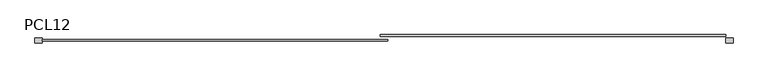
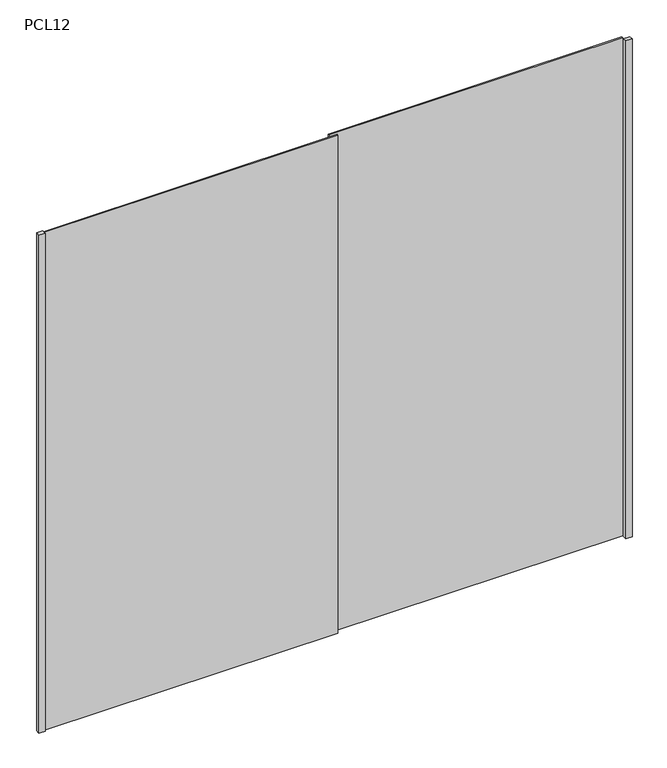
"""IFC4 building model written with IfcOpenShell, lengths in millimetres: furniture geometry, Puerta Closet corre 2 hojas : PCL12."""

import ifcopenshell
import ifcopenshell.guid

model = None  # the IFC model being written
_history = None  # IfcOwnerHistory: only IFC2X3 demands one
_inside = {}  # id of a spatial element -> (the spatial element, [elements in it])
_under = {}  # id of a project, library or spatial element -> (it, [spatial elements below it])
_declared = {}  # id of a project -> (the project, [libraries it declares])
_typed = {}  # id of a type object -> (the type object, [elements of that type])
_made_of = {}  # id of a material, layer set ... -> (it, [elements and type objects made of it])


def new_model(schema):
    """Start an empty IFC model of exactly this schema.

    Asked for "IFC4X3", IfcOpenShell would pick the latest addendum, in which some entities
    have other attributes; the version numbers below select the first issue.
    IFC2X3 requires an IfcOwnerHistory on every rooted entity: one is made here for all.
    """
    global model, _history
    if schema == "IFC4X3":
        model = ifcopenshell.file(schema_version=(4, 3, 0, 0))
    else:
        model = ifcopenshell.file(schema=schema)
    _inside.clear()
    _under.clear()
    _declared.clear()
    _typed.clear()
    _made_of.clear()
    _history = None
    if model.schema == "IFC2X3":
        org = make("IfcOrganization", Name="unknown")
        user = make(
            "IfcPersonAndOrganization",
            ThePerson=make("IfcPerson", FamilyName="unknown"),
            TheOrganization=org,
        )
        app = make(
            "IfcApplication",
            ApplicationDeveloper=org,
            Version="unknown",
            ApplicationFullName="unknown",
            ApplicationIdentifier="unknown",
        )
        _history = make(
            "IfcOwnerHistory",
            OwningUser=user,
            OwningApplication=app,
            ChangeAction="ADDED",
            CreationDate=0,
        )
    return model


def make(cls, **values):
    """One entity of the class cls with the attributes given. An attribute that is None is left unset."""
    return model.create_entity(
        cls, **{name: value for name, value in values.items() if value is not None}
    )


def rooted(cls, **values):
    """An entity with a GlobalId (a new one), such as an element, a storey or a relation."""
    return make(cls, GlobalId=ifcopenshell.guid.new(), OwnerHistory=_history, **values)


def si_unit(unit_type, name, prefix=None):
    """IfcSIUnit, for example si_unit("LENGTHUNIT", "METRE", prefix="MILLI")."""
    return make("IfcSIUnit", UnitType=unit_type, Prefix=prefix, Name=name)


def assignment(units):
    """IfcUnitAssignment: the units of a project."""
    return None if units is None else make("IfcUnitAssignment", Units=units)


def point(xyz):
    """IfcCartesianPoint."""
    return None if xyz is None else make("IfcCartesianPoint", Coordinates=xyz)


def direction(xyz):
    """IfcDirection."""
    return None if xyz is None else make("IfcDirection", DirectionRatios=xyz)


def frame(location, z_axis=None, x_axis=None):
    """IfcAxis2Placement3D, a coordinate frame: its origin and axes. An axis left out is left unset."""
    return make(
        "IfcAxis2Placement3D",
        Location=point(location),
        Axis=direction(z_axis),
        RefDirection=direction(x_axis),
    )


def origin():
    """The frame at (0, 0, 0) with its axes left unset."""
    return frame((0.0, 0.0, 0.0))


def origin_with_axes():
    """The frame at (0, 0, 0) with the z axis (0, 0, 1) and the x axis (1, 0, 0) written out."""
    return frame((0.0, 0.0, 0.0), z_axis=(0.0, 0.0, 1.0), x_axis=(1.0, 0.0, 0.0))


def place(relative_to, where):
    """IfcLocalPlacement: puts the frame where relative to a parent placement (None: the world)."""
    return make(
        "IfcLocalPlacement", PlacementRelTo=relative_to, RelativePlacement=where
    )


def context(
    kind, dimensions, precision=None, world=None, true_north=None, identifier=None
):
    """IfcGeometricRepresentationContext, for example the 3D "Model" context."""
    return make(
        "IfcGeometricRepresentationContext",
        ContextIdentifier=identifier,
        ContextType=kind,
        CoordinateSpaceDimension=dimensions,
        Precision=precision,
        WorldCoordinateSystem=world,
        TrueNorth=true_north,
    )


def project(units=None, contexts=None):
    """IfcProject with its units and contexts."""
    return rooted(
        "IfcProject",
        Name="project",
        RepresentationContexts=contexts,
        UnitsInContext=assignment(units),
    )


def spatial(cls, under=None, at=None, **own):
    """A site, building, storey or space (cls), placed at a placement, below another one or the project."""
    s = rooted(cls, ObjectPlacement=at, **own)
    if under is not None:
        _under.setdefault(under.id(), (under, []))[1].append(s)
    return s


def polyline(points):
    """IfcPolyline through the points."""
    return make("IfcPolyline", Points=[point(p) for p in points])


def outline(outer, holes=None, kind="AREA"):
    """IfcArbitraryClosedProfileDef: a profile drawn as a closed curve; with holes, ...WithVoids."""
    if holes is None:
        return make("IfcArbitraryClosedProfileDef", ProfileType=kind, OuterCurve=outer)
    return make(
        "IfcArbitraryProfileDefWithVoids",
        ProfileType=kind,
        OuterCurve=outer,
        InnerCurves=holes,
    )


def extrude(swept, where, along, depth):
    """IfcExtrudedAreaSolid: the profile swept, set in the frame where, extruded along a direction by depth."""
    return make(
        "IfcExtrudedAreaSolid",
        SweptArea=swept,
        Position=where,
        ExtrudedDirection=direction(along),
        Depth=depth,
    )


def shape(context_of_items, identifier, shape_type, items):
    """IfcShapeRepresentation: the items that make up one representation, for example the "Body"."""
    return make(
        "IfcShapeRepresentation",
        ContextOfItems=context_of_items,
        RepresentationIdentifier=identifier,
        RepresentationType=shape_type,
        Items=items,
    )


def source(mapping_origin, context_of_items, identifier, shape_type, items):
    """IfcRepresentationMap: a shape defined once, which mapped items show again and again."""
    return make(
        "IfcRepresentationMap",
        MappingOrigin=mapping_origin,
        MappedRepresentation=shape(context_of_items, identifier, shape_type, items),
    )


def transform(
    local_origin,
    x_axis=None,
    y_axis=None,
    z_axis=None,
    scale=None,
    scale2=None,
    scale3=None,
    uniform=True,
):
    """IfcCartesianTransformationOperator3D, or its non-uniform kind. x_axis, y_axis, z_axis: its Axis1, 2, 3."""
    if uniform:
        return make(
            "IfcCartesianTransformationOperator3D",
            Axis1=direction(x_axis),
            Axis2=direction(y_axis),
            LocalOrigin=point(local_origin),
            Scale=scale,
            Axis3=direction(z_axis),
        )
    return make(
        "IfcCartesianTransformationOperator3DnonUniform",
        Axis1=direction(x_axis),
        Axis2=direction(y_axis),
        LocalOrigin=point(local_origin),
        Scale=scale,
        Axis3=direction(z_axis),
        Scale2=scale2,
        Scale3=scale3,
    )


def mapped(mapping_source, mapping_target):
    """IfcMappedItem: shows the shape of a source again, moved by a transform."""
    return make(
        "IfcMappedItem", MappingSource=mapping_source, MappingTarget=mapping_target
    )


def made_of(thing, what):
    """Note that an element or type object is made of a material, layer set ...; save() writes the relation."""
    if what is not None:
        _made_of.setdefault(what.id(), (what, []))[1].append(thing)
    return thing


def element(
    cls,
    number,
    at=None,
    inside=None,
    cuts=None,
    type_object=None,
    material=None,
    context=None,
    identifier="Body",
    shape_type=None,
    held_by="IfcProductDefinitionShape",
    body=None,
    shapes=None,
    **own,
):
    """One element of the class cls, such as IfcWall. Its Tag is "e" and its number.

    at: its placement. inside: the storey or other place that contains it. cuts: it is an
    opening in that element (IfcRelVoidsElement). A single representation is given by context,
    identifier, shape_type and body (its items); several are given by shapes. held_by: the class
    of the entity that holds the representations. save() writes the other relations.
    """
    e = rooted(cls, Tag="e%d" % number, ObjectPlacement=at, **own)
    if body is not None:
        shapes = [shape(context, identifier, shape_type, body)]
    if shapes is not None:
        e.Representation = make(held_by, Representations=shapes)
    if inside is not None:
        _inside.setdefault(inside.id(), (inside, []))[1].append(e)
    if cuts is not None:
        rooted(
            "IfcRelVoidsElement", RelatingBuildingElement=cuts, RelatedOpeningElement=e
        )
    if type_object is not None:
        _typed.setdefault(type_object.id(), (type_object, []))[1].append(e)
    return made_of(e, material)


def aggregate(whole, parts):
    """IfcRelAggregates: a whole, such as a stair, and the parts it consists of."""
    return rooted("IfcRelAggregates", RelatingObject=whole, RelatedObjects=parts)


def save(model, path):
    """Write the relations noted so far, then the file.

    IfcRelAggregates (storeys below a building ...), IfcRelContainedInSpatialStructure (elements
    in a storey), IfcRelDefinesByType, IfcRelAssociatesMaterial and IfcRelDeclares: one each for
    every whole, place, type object, material and project.
    """
    for whole, parts in _under.values():
        aggregate(whole, parts)
    for where, things in _inside.values():
        rooted(
            "IfcRelContainedInSpatialStructure",
            RelatedElements=things,
            RelatingStructure=where,
        )
    for kind, things in _typed.values():
        rooted("IfcRelDefinesByType", RelatedObjects=things, RelatingType=kind)
    for what, things in _made_of.values():
        rooted("IfcRelAssociatesMaterial", RelatedObjects=things, RelatingMaterial=what)
    for by, libraries in _declared.values():
        rooted("IfcRelDeclares", RelatingContext=by, RelatedDefinitions=libraries)
    model.write(path)


def pcl12_1412e56b(model_context):
    return source(origin(), model_context, "Body", "SweptSolid", [
        extrude(outline(polyline([(880.0, 80.0), (850.0, 80.0), (850.0, 100.0), (880.0, 100.0), (880.0, 80.0)])), origin_with_axes(), (0.0, 0.0, 1.0), 2520.0),
        extrude(outline(polyline([(850.0, 106.6666667), (-555.0, 106.6666667), (-555.0, 113.3333333), (850.0, 113.3333333), (850.0, 106.6666667)])), origin_with_axes(), (0.0, 0.0, 1.0), 2520.0),
        extrude(outline(polyline([(-525.0, 86.6666667), (-1930.0, 86.6666667), (-1930.0, 93.3333333), (-525.0, 93.3333333), (-525.0, 86.6666667)])), origin_with_axes(), (0.0, 0.0, 1.0), 2520.0),
        extrude(outline(polyline([(-1960.0, 80.0), (-1960.0, 100.0), (-1930.0, 100.0), (-1930.0, 80.0), (-1960.0, 80.0)])), origin_with_axes(), (0.0, 0.0, 1.0), 2520.0),
    ])


if __name__ == "__main__":
    model = new_model("IFC4")
    model_context = context("Model", 3, world=origin())
    ifc_project = project(units=[si_unit("LENGTHUNIT", "METRE", prefix="MILLI")], contexts=[model_context])
    site = spatial("IfcSite", under=ifc_project)
    building = spatial("IfcBuilding", under=site)
    placement = place(None, origin())
    pcl12_shape = pcl12_1412e56b(model_context)
    element("IfcFurniture", 1, ObjectType="Puerta Closet corre 2 hojas : PCL12", at=placement, inside=building, context=model_context, shape_type="MappedRepresentation", body=[
        mapped(pcl12_shape, transform((0.0, 0.0, 0.0), x_axis=(1.0, 0.0, 0.0), y_axis=(0.0, 1.0, 0.0), z_axis=(0.0, 0.0, 1.0))),
    ])
    save(model, "model.ifc")
